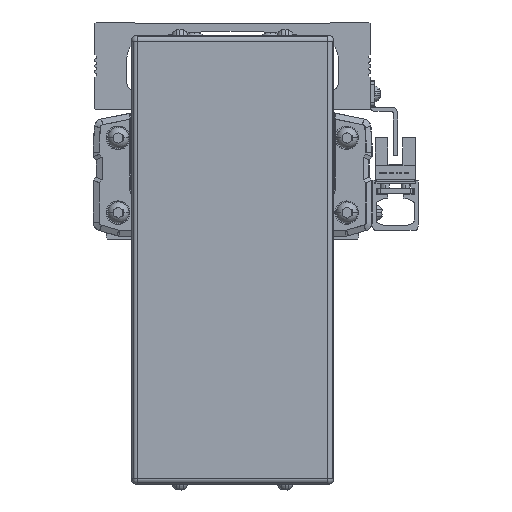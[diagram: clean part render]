
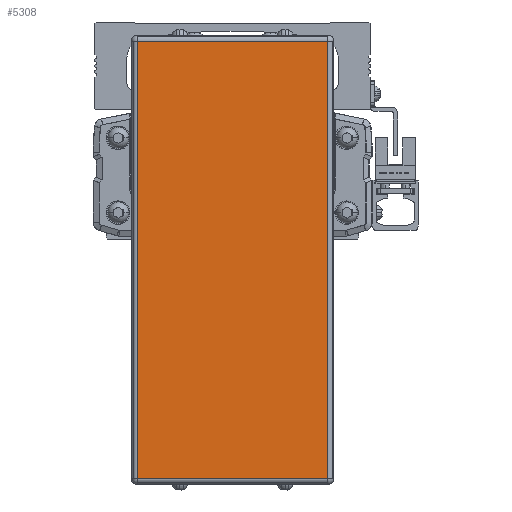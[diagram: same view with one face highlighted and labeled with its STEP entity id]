
A CAD part, front view. The second image highlights one B-rep face of the part: STEP entity #5308.
In plain terms, the highlighted planar face has unit normal (0, -1, 0).
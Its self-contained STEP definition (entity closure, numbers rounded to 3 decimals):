
#5308=ADVANCED_FACE('',(#11782),#11783,.T.);
#11782=FACE_OUTER_BOUND('',#20572,.T.);
#11783=PLANE('',#20573);
#20572=EDGE_LOOP('',(#36459,#36460,#36461,#36462));
#20573=AXIS2_PLACEMENT_3D('',#36463,#36464,#36465);
#36459=ORIENTED_EDGE('',*,*,#53385,.F.);
#36460=ORIENTED_EDGE('',*,*,#53907,.F.);
#36461=ORIENTED_EDGE('',*,*,#47868,.F.);
#36462=ORIENTED_EDGE('',*,*,#51785,.F.);
#36463=CARTESIAN_POINT('',(0.,10.222,-50.1));
#36464=DIRECTION('',(0.0,-1.0,0.));
#36465=DIRECTION('',(1.0,0.0,0.0));
#47868=EDGE_CURVE('',#56768,#56770,#56771,.T.);
#51785=EDGE_CURVE('',#63428,#56768,#63430,.T.);
#53385=EDGE_CURVE('',#65812,#63428,#65814,.T.);
#53907=EDGE_CURVE('',#56770,#65812,#66502,.T.);
#56768=VERTEX_POINT('',#69875);
#56770=VERTEX_POINT('',#69877);
#56771=LINE('',#69878,#69879);
#63428=VERTEX_POINT('',#79404);
#63430=LINE('',#79406,#79407);
#65812=VERTEX_POINT('',#83058);
#65814=LINE('',#83060,#83061);
#66502=LINE('',#84135,#84136);
#69875=CARTESIAN_POINT('',(-32.5,10.222,-124.7));
#69877=CARTESIAN_POINT('',(-32.5,10.222,24.5));
#69878=CARTESIAN_POINT('',(-32.5,10.222,-50.1));
#69879=VECTOR('',#89028,10.0);
#79404=CARTESIAN_POINT('',(32.5,10.222,-124.7));
#79406=CARTESIAN_POINT('',(0.,10.222,-124.7));
#79407=VECTOR('',#94191,10.0);
#83058=CARTESIAN_POINT('',(32.5,10.222,24.5));
#83060=CARTESIAN_POINT('',(32.5,10.222,-50.1));
#83061=VECTOR('',#95946,10.0);
#84135=CARTESIAN_POINT('',(0.,10.222,24.5));
#84136=VECTOR('',#96520,10.0);
#89028=DIRECTION('',(0.0,0.,1.0));
#94191=DIRECTION('',(-1.0,0.0,0.0));
#95946=DIRECTION('',(0.0,0.,-1.0));
#96520=DIRECTION('',(1.0,0.0,0.0));
